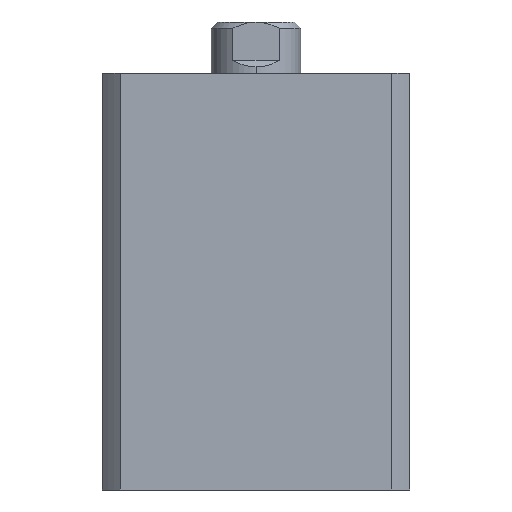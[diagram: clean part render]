
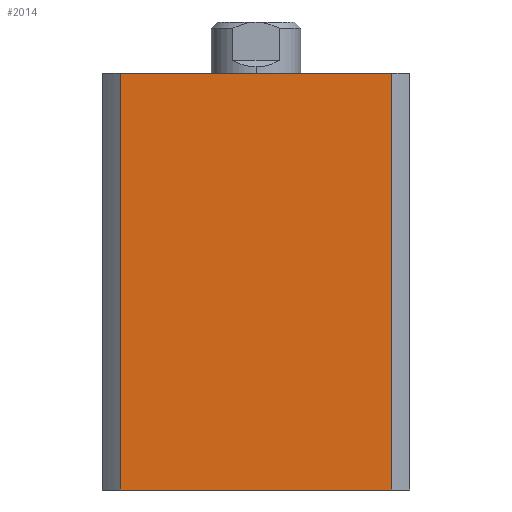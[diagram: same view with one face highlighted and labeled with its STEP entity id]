
A CAD part, left-side view. The second image highlights one B-rep face of the part: STEP entity #2014.
In plain terms, the highlighted planar face has unit normal (-1, 0, 0).
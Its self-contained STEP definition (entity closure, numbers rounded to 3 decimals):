
#428 = CARTESIAN_POINT ( 'NONE',  ( -24., 0., 65. ) ) ;
#429 = PLANE ( 'NONE',  #4753 ) ;
#433 = DIRECTION ( 'NONE',  ( 1., 0., 0. ) ) ;
#434 = DIRECTION ( 'NONE',  ( 0., 0., -1. ) ) ;
#893 = ORIENTED_EDGE ( 'NONE', *, *, #4450, .T. ) ;
#894 = ORIENTED_EDGE ( 'NONE', *, *, #4419, .F. ) ;
#895 = ORIENTED_EDGE ( 'NONE', *, *, #4449, .F. ) ;
#896 = ORIENTED_EDGE ( 'NONE', *, *, #4448, .T. ) ;
#934 = EDGE_LOOP ( 'NONE', ( #896, #895, #894, #893 ) ) ;
#1027 = VERTEX_POINT ( 'NONE', #4684 ) ;
#1030 = VERTEX_POINT ( 'NONE', #4681 ) ;
#1216 = VERTEX_POINT ( 'NONE', #4645 ) ;
#1247 = VERTEX_POINT ( 'NONE', #4611 ) ;
#1445 = FACE_OUTER_BOUND ( 'NONE', #934, .T. ) ;
#1891 = LINE ( 'NONE', #2429, #1893 ) ;
#1893 = VECTOR ( 'NONE', #2430, 1000. ) ;
#1904 = LINE ( 'NONE', #2583, #1929 ) ;
#1925 = LINE ( 'NONE', #2577, #1927 ) ;
#1926 = LINE ( 'NONE', #2582, #1931 ) ;
#1927 = VECTOR ( 'NONE', #2578, 1000. ) ;
#1929 = VECTOR ( 'NONE', #2588, 1000. ) ;
#1931 = VECTOR ( 'NONE', #2590, 1000. ) ;
#2014 = ADVANCED_FACE ( 'NONE', ( #1445 ), #429, .F. ) ;
#2429 = CARTESIAN_POINT ( 'NONE',  ( -24., 0., 65. ) ) ;
#2430 = DIRECTION ( 'NONE',  ( 0., -1., 0. ) ) ;
#2577 = CARTESIAN_POINT ( 'NONE',  ( -24., 0., 0. ) ) ;
#2578 = DIRECTION ( 'NONE',  ( 0., -1., 0. ) ) ;
#2582 = CARTESIAN_POINT ( 'NONE',  ( -24., 21.166, 65. ) ) ;
#2583 = CARTESIAN_POINT ( 'NONE',  ( -24., -21.166, 65. ) ) ;
#2588 = DIRECTION ( 'NONE',  ( 0., 0., -1. ) ) ;
#2590 = DIRECTION ( 'NONE',  ( 0., 0., -1. ) ) ;
#4419 = EDGE_CURVE ( 'NONE', #1216, #1247, #1891, .T. ) ;
#4448 = EDGE_CURVE ( 'NONE', #1030, #1027, #1925, .T. ) ;
#4449 = EDGE_CURVE ( 'NONE', #1247, #1027, #1904, .T. ) ;
#4450 = EDGE_CURVE ( 'NONE', #1216, #1030, #1926, .T. ) ;
#4611 = CARTESIAN_POINT ( 'NONE',  ( -24., -21.166, 65. ) ) ;
#4645 = CARTESIAN_POINT ( 'NONE',  ( -24., 21.166, 65. ) ) ;
#4681 = CARTESIAN_POINT ( 'NONE',  ( -24., 21.166, 0. ) ) ;
#4684 = CARTESIAN_POINT ( 'NONE',  ( -24., -21.166, 0. ) ) ;
#4753 = AXIS2_PLACEMENT_3D ( 'NONE', #428, #433, #434 ) ;
